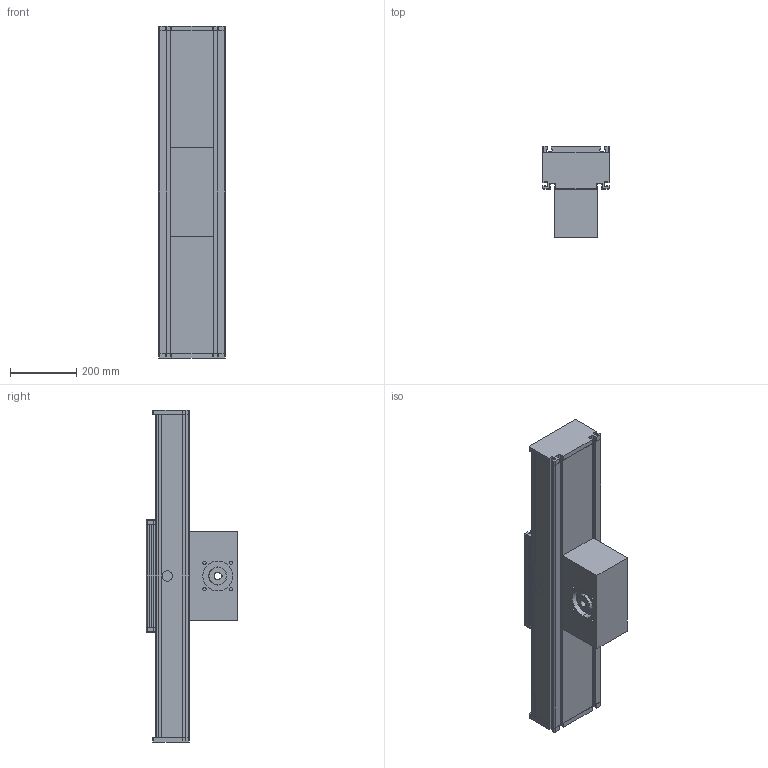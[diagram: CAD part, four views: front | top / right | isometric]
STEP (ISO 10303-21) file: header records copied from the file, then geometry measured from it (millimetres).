
FILE_DESCRIPTION (( 'STEP AP214' ), '1' );
FILE_NAME ('DSZS200.STEP', '2022-07-22T10:26:48', ( '' ), ( '' ), 'SwSTEP 2.0', 'SolidWorks 2020', '' );
FILE_SCHEMA (( 'AUTOMOTIVE_DESIGN' ));
Length unit declared in the file: millimetre
Products named in the file (5): end plate^DSZS200_0; DSZS200; profile^DSZS200_standard; carriage^DSZS200_carriage version 0; timing belt reverse unit^DSZS200_coupling claw pos.2
Assembly tree (5 placements, depth 2):
  DSZS200
    profile^DSZS200_standard
    carriage^DSZS200_carriage version 0
    timing belt reverse unit^DSZS200_coupling claw pos.2
    end plate^DSZS200_0  x2
Bounding box: 200.2 x 275 x 1000 mm (x, y, z)
Volume: 17584519.8 mm3; surface area: 2508736.9 mm2
Topology: 14 solids, 14 shells, 402 faces, 1068 edges, 706 vertices
Faces by surface type: plane 292, cylinder 100, torus 8, cone 2
Entity records: 12213 total; most frequent: CARTESIAN_POINT 1990, ORIENTED_EDGE 1944, DIRECTION 1918, EDGE_CURVE 972, LINE 778, VECTOR 778, VERTEX_POINT 642, AXIS2_PLACEMENT_3D 570
